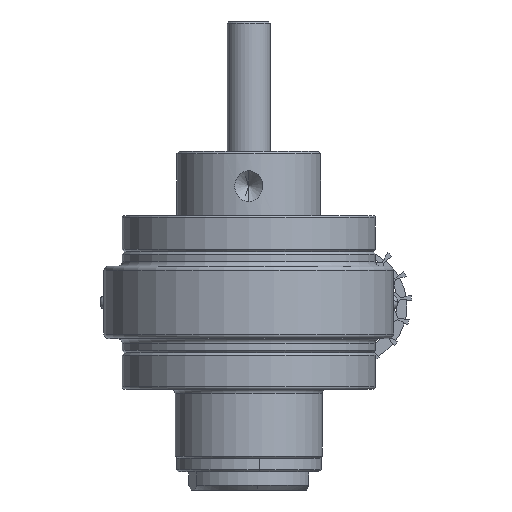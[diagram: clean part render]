
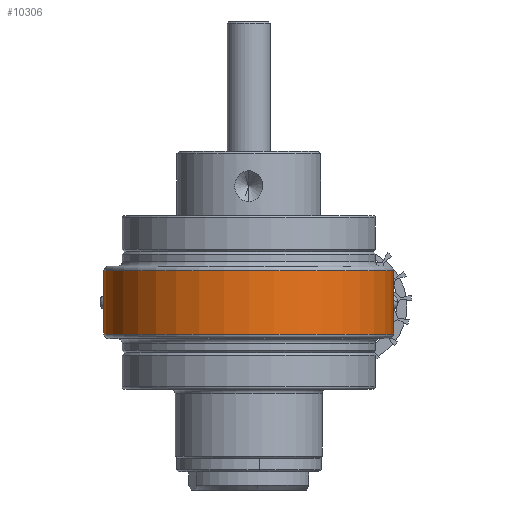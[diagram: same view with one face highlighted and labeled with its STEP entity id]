
A CAD part, front view. The second image highlights one B-rep face of the part: STEP entity #10306.
In plain terms, the highlighted cylindrical face has radius 32 mm (diameter 64 mm), a partial arc.
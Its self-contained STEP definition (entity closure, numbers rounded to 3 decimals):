
#33 = CARTESIAN_POINT ( 'NONE',  ( 32., 0., -7. ) ) ;
#1513 = ORIENTED_EDGE ( 'NONE', *, *, #40183, .T. ) ;
#2933 = CIRCLE ( 'NONE', #14303, 32. ) ;
#5813 = ORIENTED_EDGE ( 'NONE', *, *, #13110, .T. ) ;
#6379 = AXIS2_PLACEMENT_3D ( 'NONE', #7464, #7934, #11295 ) ;
#6676 = VERTEX_POINT ( 'NONE', #35817 ) ;
#7464 = CARTESIAN_POINT ( 'NONE',  ( 0., 0., -7. ) ) ;
#7551 = EDGE_CURVE ( 'NONE', #6676, #43022, #41469, .T. ) ;
#7934 = DIRECTION ( 'NONE',  ( 0., 0., 1. ) ) ;
#10306 = ADVANCED_FACE ( 'NONE', ( #30906 ), #45025, .T. ) ;
#10835 = CARTESIAN_POINT ( 'NONE',  ( 32., 0., 8. ) ) ;
#11295 = DIRECTION ( 'NONE',  ( 1., 0., 0. ) ) ;
#12103 = EDGE_LOOP ( 'NONE', ( #38868, #5813, #24137, #1513 ) ) ;
#13110 = EDGE_CURVE ( 'NONE', #6676, #46551, #2933, .T. ) ;
#14303 = AXIS2_PLACEMENT_3D ( 'NONE', #19983, #41721, #27056 ) ;
#16499 = CARTESIAN_POINT ( 'NONE',  ( 0., 0., 8. ) ) ;
#17620 = EDGE_CURVE ( 'NONE', #46551, #40221, #32083, .T. ) ;
#18064 = AXIS2_PLACEMENT_3D ( 'NONE', #16499, #27510, #38385 ) ;
#19983 = CARTESIAN_POINT ( 'NONE',  ( 0., 0., 7. ) ) ;
#23112 = CARTESIAN_POINT ( 'NONE',  ( -32., 0., 8. ) ) ;
#24137 = ORIENTED_EDGE ( 'NONE', *, *, #17620, .T. ) ;
#27056 = DIRECTION ( 'NONE',  ( 1., 0., 0. ) ) ;
#27510 = DIRECTION ( 'NONE',  ( 0., 0., -1. ) ) ;
#30906 = FACE_OUTER_BOUND ( 'NONE', #12103, .T. ) ;
#32083 = LINE ( 'NONE', #23112, #33793 ) ;
#32796 = CARTESIAN_POINT ( 'NONE',  ( -32., 0., -7. ) ) ;
#33793 = VECTOR ( 'NONE', #40610, 1000. ) ;
#34747 = CARTESIAN_POINT ( 'NONE',  ( -32., 0., 7. ) ) ;
#35817 = CARTESIAN_POINT ( 'NONE',  ( 32., 0., 7. ) ) ;
#37214 = DIRECTION ( 'NONE',  ( 0., 0., -1. ) ) ;
#38385 = DIRECTION ( 'NONE',  ( -1., 0., 0. ) ) ;
#38868 = ORIENTED_EDGE ( 'NONE', *, *, #7551, .F. ) ;
#40183 = EDGE_CURVE ( 'NONE', #40221, #43022, #42798, .T. ) ;
#40221 = VERTEX_POINT ( 'NONE', #32796 ) ;
#40610 = DIRECTION ( 'NONE',  ( 0., 0., -1. ) ) ;
#41469 = LINE ( 'NONE', #10835, #43203 ) ;
#41721 = DIRECTION ( 'NONE',  ( 0., 0., -1. ) ) ;
#42798 = CIRCLE ( 'NONE', #6379, 32. ) ;
#43022 = VERTEX_POINT ( 'NONE', #33 ) ;
#43203 = VECTOR ( 'NONE', #37214, 1000. ) ;
#45025 = CYLINDRICAL_SURFACE ( 'NONE', #18064, 32. ) ;
#46551 = VERTEX_POINT ( 'NONE', #34747 ) ;
